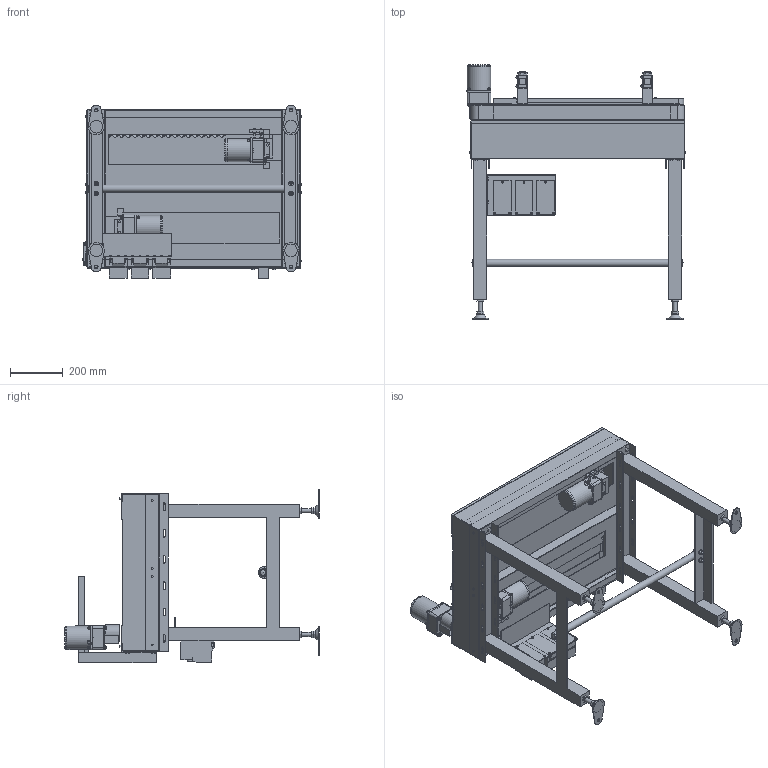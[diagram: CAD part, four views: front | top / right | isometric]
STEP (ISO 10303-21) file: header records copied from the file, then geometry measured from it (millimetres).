
FILE_DESCRIPTION( (''), '2;1');
FILE_NAME ('WEB-SGA-304x3-400-R-IVH-15-A.stp','2026-09-19T10:38:20',(''),(''),'spGate 21.9.5 (****-****-****-****)','','');
FILE_SCHEMA (('AUTOMOTIVE_DESIGN'));
Length unit declared in the file: millimetre
Products named in the file (91): WEB-SGA-304x3-400-R-IVH-15-A; TEMP_X_T-prt0; TEMP_X_T-prt1; TEMP_X_T-prt2; TEMP_X_T-prt3; TEMP_X_T-prt4; TEMP_X_T-prt5; TEMP_X_T-prt6; TEMP_X_T-prt7; TEMP_X_T-prt8; TEMP_X_T-prt9; TEMP_X_T-prt10; TEMP_X_T-prt11; TEMP_X_T-prt12; TEMP_X_T-prt13; TEMP_X_T-prt14; TEMP_X_T-prt15; TEMP_X_T-prt16; TEMP_X_T-prt17; TEMP_X_T-prt18; TEMP_X_T-prt19; TEMP_X_T-prt20; TEMP_X_T-prt21; TEMP_X_T-prt22; TEMP_X_T-prt23; TEMP_X_T-prt24; TEMP_X_T-prt25; TEMP_X_T-prt26; TEMP_X_T-prt27; TEMP_X_T-prt28; TEMP_X_T-prt29; TEMP_X_T-prt30; TEMP_X_T-prt31; TEMP_X_T-prt32; TEMP_X_T-prt33; TEMP_X_T-prt34; TEMP_X_T-prt35; TEMP_X_T-prt36; TEMP_X_T-prt37; TEMP_X_T-prt38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
Assembly tree (90 placements, depth 2):
  WEB-SGA-304x3-400-R-IVH-15-A
    TEMP_X_T-prt0
    TEMP_X_T-prt1
    TEMP_X_T-prt2
    TEMP_X_T-prt3
    TEMP_X_T-prt4
    TEMP_X_T-prt5
    TEMP_X_T-prt6
    TEMP_X_T-prt7
    TEMP_X_T-prt8
    TEMP_X_T-prt9
    TEMP_X_T-prt10
    TEMP_X_T-prt11
    TEMP_X_T-prt12
    TEMP_X_T-prt13
    TEMP_X_T-prt14
    TEMP_X_T-prt15
    TEMP_X_T-prt16
    TEMP_X_T-prt17
    TEMP_X_T-prt18
    TEMP_X_T-prt19
    TEMP_X_T-prt20
    TEMP_X_T-prt21
    TEMP_X_T-prt22
    TEMP_X_T-prt23
    TEMP_X_T-prt24
    TEMP_X_T-prt25
    TEMP_X_T-prt26
    TEMP_X_T-prt27
    TEMP_X_T-prt28
    TEMP_X_T-prt29
    TEMP_X_T-prt30
    TEMP_X_T-prt31
    TEMP_X_T-prt32
    TEMP_X_T-prt33
    TEMP_X_T-prt34
    TEMP_X_T-prt35
    TEMP_X_T-prt36
    TEMP_X_T-prt37
    TEMP_X_T-prt38
    TEMP_X_T-prt39
    TEMP_X_T-prt40
    TEMP_X_T-prt41
    TEMP_X_T-prt42
    TEMP_X_T-prt43
    TEMP_X_T-prt44
    TEMP_X_T-prt45
    TEMP_X_T-prt46
    TEMP_X_T-prt47
    TEMP_X_T-prt48
    TEMP_X_T-prt49
    TEMP_X_T-prt50
    TEMP_X_T-prt51
    TEMP_X_T-prt52
    TEMP_X_T-prt53
    TEMP_X_T-prt54
    TEMP_X_T-prt55
    TEMP_X_T-prt56
    TEMP_X_T-prt57
    TEMP_X_T-prt58
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Bounding box: 834.17 x 968.4 x 660 mm (x, y, z)
Volume: 24202542.5 mm3; surface area: 5429781.3 mm2
Topology: 90 solids, 91 shells, 2941 faces, 7603 edges, 5046 vertices
Faces by surface type: plane 2205, cylinder 514, bspline 214, sphere 8
Full cylindrical faces by diameter (mm): 2 x3, 3.3 x9, 4 x18, 5 x17, 5.5 x3, 6 x34, 6.5 x24, 6.6 x12, 7 x4, 8 x10, 8.49 x3, 9 x8, 10 x12, 10.5 x1, 11.5 x2, 12 x3, 12.2 x2, 12.5 x12, 13 x4, 16 x10, 17 x4, 20 x4, 22 x1, 27.2 x1, 28 x2, 36 x3, 40 x4, 50 x2, 83 x3, 84 x3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
Entity records: 157174 total; most frequent: CARTESIAN_POINT 22096, ORIENTED_EDGE 15162, DIRECTION 14493, COLOUR_RGB 10612, PRESENTATION_STYLE_ASSIGNMENT 10612, STYLED_ITEM 10612, EDGE_CURVE 7581, DRAUGHTING_PRE_DEFINED_CURVE_FONT 7581
